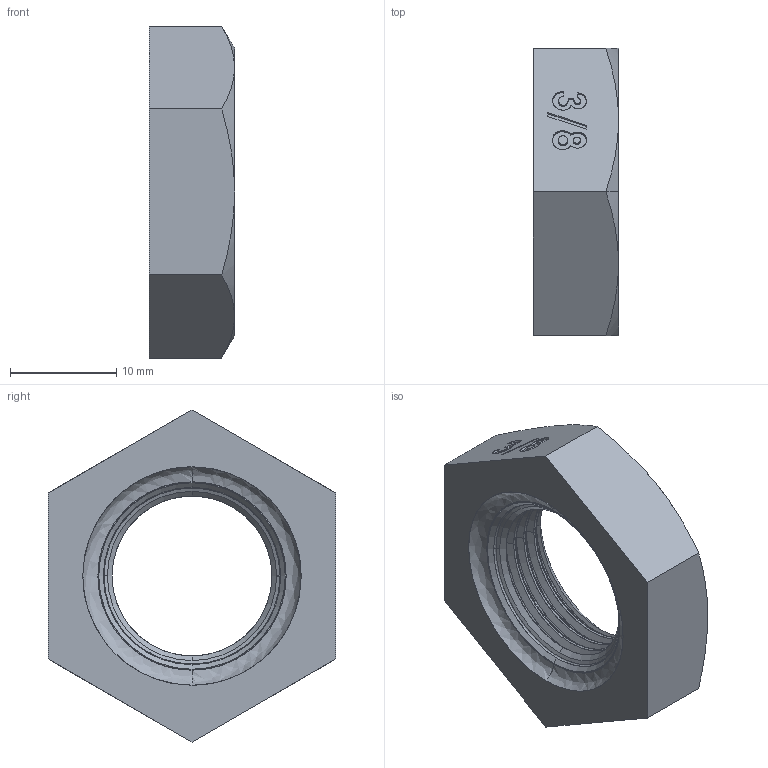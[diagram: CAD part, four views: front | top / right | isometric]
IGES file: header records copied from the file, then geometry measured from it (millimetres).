
Start section: SolidWorks IGES file using analytic representation for surfaces
Global section: file name: C:\Users\Joel Rosa\Desktop\Tubulação\12-06-XXX\12-06-003.IGS; native system: SolidWorks 2011; preprocessor: SolidWorks 2011; author: Joel Rosa; date: 130806.183829; units: millimetre
Bounding box: 8 x 27 x 31.18 mm (x, y, z)
Surface area: 2120.6 mm2 (no closed solid volume)
Topology: 0 solids, 0 shells, 175 faces, 1942 edges, 1942 vertices
Faces by surface type: bspline 144, revolution 31
